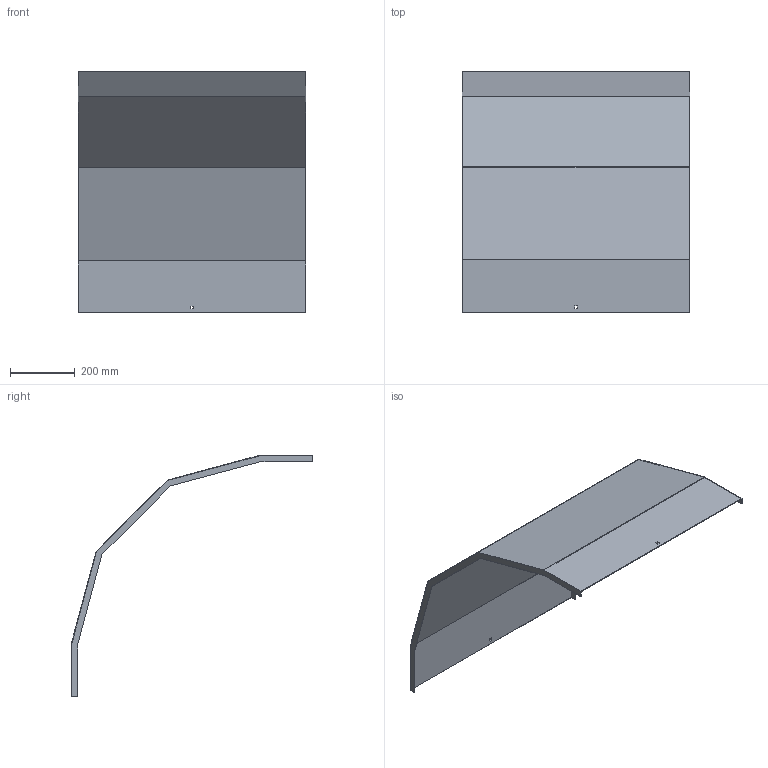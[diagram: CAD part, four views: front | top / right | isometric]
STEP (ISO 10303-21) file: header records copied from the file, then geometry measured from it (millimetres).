
FILE_DESCRIPTION (( 'STEP AP214' ), '1' );
FILE_NAME ('33N5C700.step', '2025-02-21T10:42:59', ( '' ), ( '' ), 'SwSTEP 2.0', 'SolidWorks 2023', '' );
FILE_SCHEMA (( 'AUTOMOTIVE_DESIGN' ));
Length unit declared in the file: millimetre
Products named in the file (1): 33N5C700
Bounding box: 703 x 745.38 x 745.38 mm (x, y, z)
Volume: 1361761.3 mm3; surface area: 1821589.4 mm2
Topology: 1 solids, 1 shells, 34 faces, 96 edges, 64 vertices
Faces by surface type: plane 34
Entity records: 1111 total; most frequent: CARTESIAN_POINT 195, ORIENTED_EDGE 192, DIRECTION 166, EDGE_CURVE 96, LINE 96, VECTOR 96, VERTEX_POINT 64, EDGE_LOOP 38
